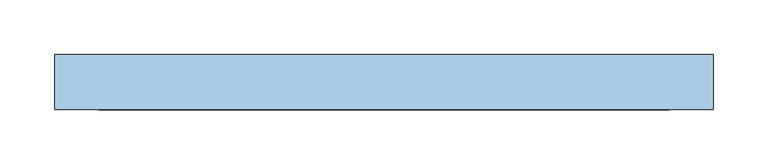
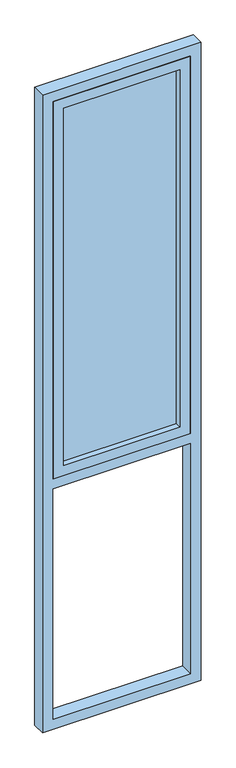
"""IFC4 building model written with IfcOpenShell, lengths in millimetres: window geometry, VENT_ALUM_PROY_ARRIBA : VD-15 / PROYECC RECAM 0.6 X 2.55."""

from ifc_helpers import new_model, si_unit, frame, origin, place, context, project, spatial, polyline, outline, extrude, source, transform, mapped, element, save


def window_d225dcda(model_context):
    return source(origin(), model_context, "Body", "SweptSolid", [
        extrude(outline(polyline([(1500.0, -260.0), (1500.0, 260.0), (3010.0, 260.0), (3010.0, -260.0), (1500.0, -260.0)]), holes=[polyline([(2970.0, -220.0), (2970.0, 220.0), (1540.0, 220.0), (1540.0, -220.0), (2970.0, -220.0)])]), frame((0.0, -25.0, 0.0), z_axis=(0.0, 1.0, 0.0), x_axis=(0.0, 0.0, 1.0)), (0.0, 0.0, 1.0), 50.0),
        extrude(outline(polyline([(260.0, -3.0), (-260.0, -3.0), (-260.0, 3.0), (260.0, 3.0), (260.0, -3.0)])), frame((0.0, 0.0, 1540.0), z_axis=(0.0, 0.0, 1.0), x_axis=(1.0, 0.0, 0.0)), (0.0, 0.0, 1.0), 1470.0),
        extrude(outline(polyline([(3050.0, -300.0), (500.0, -300.0), (500.0, 300.0), (3050.0, 300.0), (3050.0, -300.0)]), holes=[polyline([(1460.0, -260.0), (1460.0, 260.0), (540.0, 260.0), (540.0, -260.0), (1460.0, -260.0)]), polyline([(1500.0, 260.0), (1500.0, -260.0), (3010.0, -260.0), (3010.0, 260.0), (1500.0, 260.0)])]), frame((0.0, -25.0, 0.0), z_axis=(0.0, 1.0, 0.0), x_axis=(0.0, 0.0, 1.0)), (0.0, 0.0, 1.0), 50.0),
    ])


if __name__ == "__main__":
    model = new_model("IFC4")
    model_context = context("Model", 3, world=origin())
    ifc_project = project(units=[si_unit("LENGTHUNIT", "METRE", prefix="MILLI")], contexts=[model_context])
    site = spatial("IfcSite", under=ifc_project)
    building = spatial("IfcBuilding", under=site)
    placement = place(None, origin())
    window_shape = window_d225dcda(model_context)
    element("IfcWindow", 1, ObjectType="VENT_ALUM_PROY_ARRIBA : VD-15 / PROYECC RECAM 0.6 X 2.55", at=placement, inside=building, context=model_context, shape_type="MappedRepresentation", body=[
        mapped(window_shape, transform((0.0, 0.0, 0.0), x_axis=(1.0, 0.0, 0.0), y_axis=(0.0, 1.0, 0.0), z_axis=(0.0, 0.0, 1.0))),
    ])
    save(model, "model.ifc")
